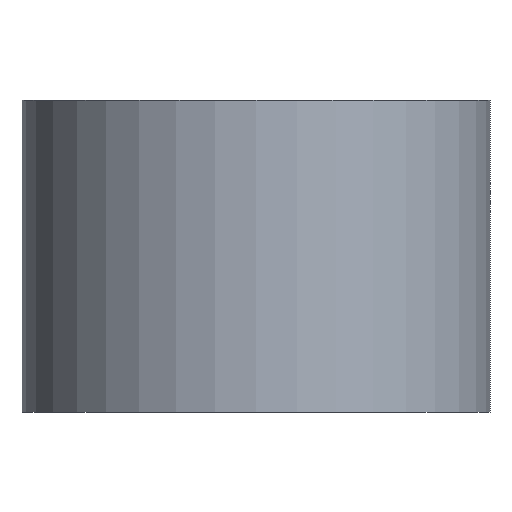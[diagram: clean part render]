
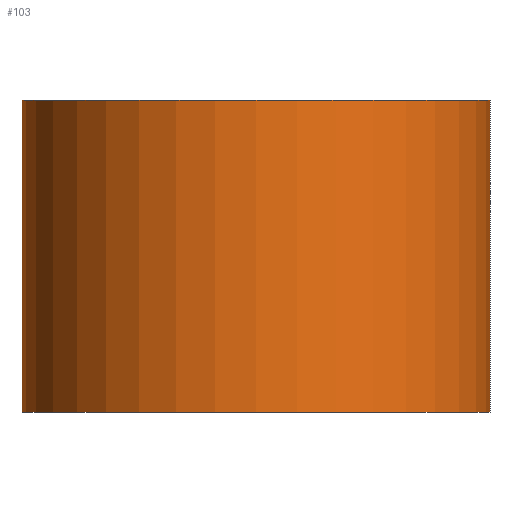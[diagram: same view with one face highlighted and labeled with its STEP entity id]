
A CAD part, left-side view. The second image highlights one B-rep face of the part: STEP entity #103.
In plain terms, the highlighted cylindrical face has radius 12 mm (diameter 24 mm), a partial arc.
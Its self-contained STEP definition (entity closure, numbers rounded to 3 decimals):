
#103=ADVANCED_FACE('',(#113),#109,.T.);
#109=CYLINDRICAL_SURFACE('',#188,12.);
#113=FACE_OUTER_BOUND('',#117,.T.);
#117=EDGE_LOOP('',(#133,#134,#135,#136));
#125=CIRCLE('',#186,12.);
#126=CIRCLE('',#187,12.);
#133=ORIENTED_EDGE('',*,*,#165,.T.);
#134=ORIENTED_EDGE('',*,*,#166,.F.);
#135=ORIENTED_EDGE('',*,*,#167,.F.);
#136=ORIENTED_EDGE('',*,*,#168,.T.);
#157=VERTEX_POINT('',#236);
#158=VERTEX_POINT('',#237);
#159=VERTEX_POINT('',#239);
#160=VERTEX_POINT('',#241);
#165=EDGE_CURVE('',#157,#158,#177,.T.);
#166=EDGE_CURVE('',#159,#158,#125,.T.);
#167=EDGE_CURVE('',#160,#159,#178,.T.);
#168=EDGE_CURVE('',#160,#157,#126,.T.);
#177=LINE('',#235,#181);
#178=LINE('',#240,#182);
#181=VECTOR('',#202,1.);
#182=VECTOR('',#205,1.);
#186=AXIS2_PLACEMENT_3D('',#238,#203,#204);
#187=AXIS2_PLACEMENT_3D('',#242,#206,#207);
#188=AXIS2_PLACEMENT_3D('',#243,#208,#209);
#202=DIRECTION('',(0.,0.,1.));
#203=DIRECTION('',(0.,0.,1.));
#204=DIRECTION('',(1.,0.,0.));
#205=DIRECTION('',(0.,0.,1.));
#206=DIRECTION('',(0.,0.,1.));
#207=DIRECTION('',(1.,0.,0.));
#208=DIRECTION('',(0.,0.,1.));
#209=DIRECTION('',(-1.,0.,0.));
#235=CARTESIAN_POINT('',(0.,-12.,0.));
#236=CARTESIAN_POINT('',(0.,-12.,0.));
#237=CARTESIAN_POINT('',(0.,-12.,16.));
#238=CARTESIAN_POINT('',(0.,0.,16.));
#239=CARTESIAN_POINT('',(0.,12.,16.));
#240=CARTESIAN_POINT('',(0.,12.,0.));
#241=CARTESIAN_POINT('',(0.,12.,0.));
#242=CARTESIAN_POINT('',(0.,0.,0.));
#243=CARTESIAN_POINT('',(0.,0.,0.));
